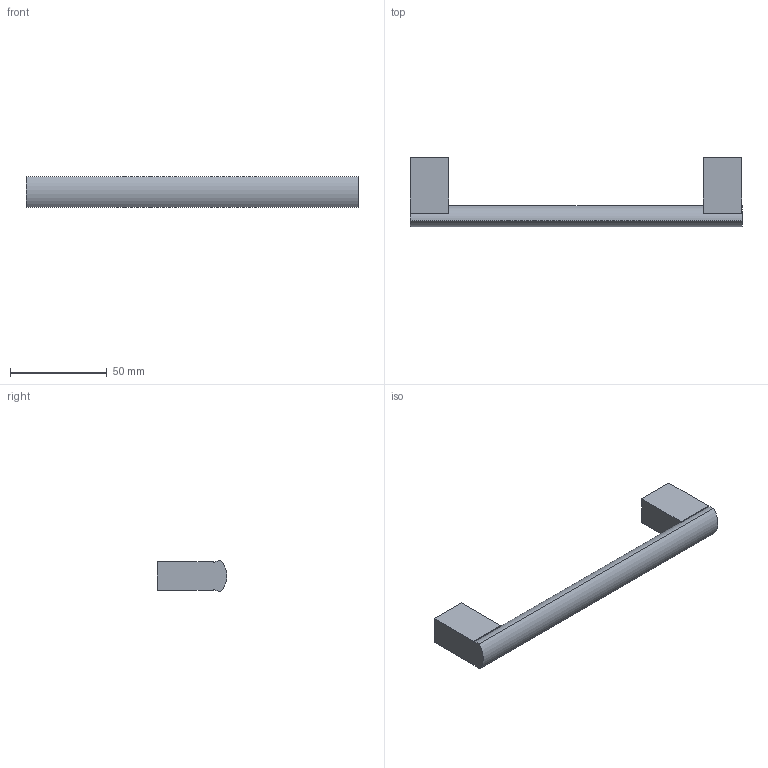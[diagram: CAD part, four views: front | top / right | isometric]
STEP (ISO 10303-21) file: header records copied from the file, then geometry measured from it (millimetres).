
FILE_DESCRIPTION( ( 'STEP AP214' ), '1' );
FILE_NAME( 'D:/Shahbaz D&D/Task/Check and correct handles with 3 drill sockets/Clivia/115353.stp', '2023-02-20T10:35:15', ( '' ), ( '' ), ' ', 'PARTsolutions', ' ' );
FILE_SCHEMA( ( 'AUTOMOTIVE_DESIGN { 1 0 10303 214 1 1 1 1 }' ) );
Length unit declared in the file: millimetre
Products named in the file (1): _115353
Bounding box: 172 x 35.96 x 16 mm (x, y, z)
Volume: 38573.8 mm3; surface area: 11672.2 mm2
Topology: 1 solids, 1 shells, 21 faces, 48 edges, 32 vertices
Faces by surface type: plane 17, cylinder 4
Full cylindrical faces by diameter (mm): 4 x2
Entity records: 768 total; most frequent: DIRECTION 102, CARTESIAN_POINT 100, ORIENTED_EDGE 92, EDGE_CURVE 46, AXIS2_PLACEMENT_3D 34, LINE 34, VECTOR 34, VERTEX_POINT 32
